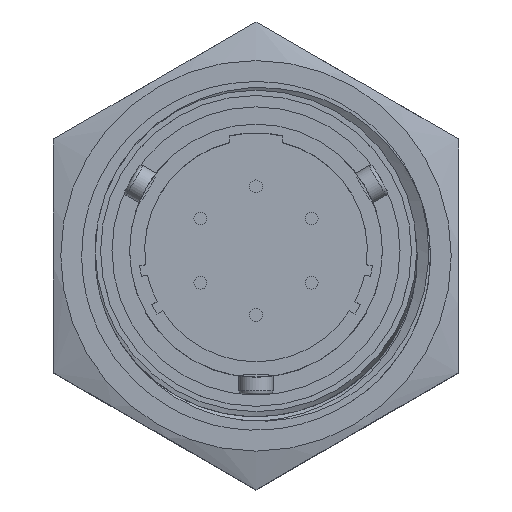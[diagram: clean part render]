
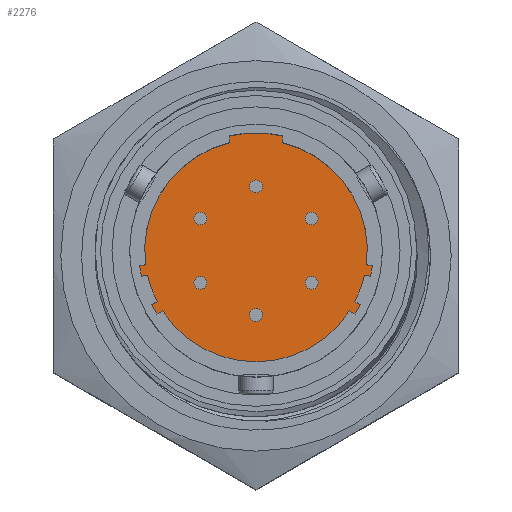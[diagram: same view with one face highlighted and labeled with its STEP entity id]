
A CAD part, top view. The second image highlights one B-rep face of the part: STEP entity #2276.
In plain terms, the highlighted planar face has unit normal (0, 0, 1).
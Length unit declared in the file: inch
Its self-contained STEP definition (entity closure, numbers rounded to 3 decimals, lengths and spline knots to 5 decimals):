
#173=PLANE('',#2717);
#296=FACE_OUTER_BOUND('',#458,.T.);
#458=EDGE_LOOP('',(#1836,#1837,#1838,#1839,#1840,#1841,#1842,#1843,#1844,
#1845,#1846,#1847,#1848,#1849,#1850,#1851,#1852,#1853,#1854,#1855));
#583=CIRCLE('',#2718,0.25942);
#584=CIRCLE('',#2719,0.27445);
#585=CIRCLE('',#2720,0.25923);
#586=CIRCLE('',#2721,0.25971);
#587=CIRCLE('',#2722,0.275);
#588=CIRCLE('',#2723,0.25971);
#589=CIRCLE('',#2724,0.25923);
#590=CIRCLE('',#2725,0.27445);
#774=LINE('',#8503,#906);
#775=LINE('',#8507,#907);
#776=LINE('',#8511,#908);
#777=LINE('',#8513,#909);
#778=LINE('',#8515,#910);
#779=LINE('',#8519,#911);
#780=LINE('',#8523,#912);
#781=LINE('',#8527,#913);
#782=LINE('',#8529,#914);
#783=LINE('',#8531,#915);
#784=LINE('',#8535,#916);
#785=LINE('',#8538,#917);
#906=VECTOR('',#3156,0.3937);
#907=VECTOR('',#3159,0.3937);
#908=VECTOR('',#3162,0.3937);
#909=VECTOR('',#3163,0.3937);
#910=VECTOR('',#3164,0.3937);
#911=VECTOR('',#3167,0.3937);
#912=VECTOR('',#3170,0.3937);
#913=VECTOR('',#3173,0.3937);
#914=VECTOR('',#3174,0.3937);
#915=VECTOR('',#3175,0.3937);
#916=VECTOR('',#3178,0.3937);
#917=VECTOR('',#3181,0.3937);
#1092=VERTEX_POINT('',#8499);
#1093=VERTEX_POINT('',#8500);
#1094=VERTEX_POINT('',#8502);
#1095=VERTEX_POINT('',#8504);
#1096=VERTEX_POINT('',#8506);
#1097=VERTEX_POINT('',#8508);
#1098=VERTEX_POINT('',#8510);
#1099=VERTEX_POINT('',#8512);
#1100=VERTEX_POINT('',#8514);
#1101=VERTEX_POINT('',#8516);
#1102=VERTEX_POINT('',#8518);
#1103=VERTEX_POINT('',#8520);
#1104=VERTEX_POINT('',#8522);
#1105=VERTEX_POINT('',#8524);
#1106=VERTEX_POINT('',#8526);
#1107=VERTEX_POINT('',#8528);
#1108=VERTEX_POINT('',#8530);
#1109=VERTEX_POINT('',#8532);
#1110=VERTEX_POINT('',#8534);
#1111=VERTEX_POINT('',#8536);
#1359=EDGE_CURVE('',#1092,#1093,#583,.T.);
#1360=EDGE_CURVE('',#1093,#1094,#774,.T.);
#1361=EDGE_CURVE('',#1094,#1095,#584,.T.);
#1362=EDGE_CURVE('',#1095,#1096,#775,.T.);
#1363=EDGE_CURVE('',#1096,#1097,#585,.T.);
#1364=EDGE_CURVE('',#1097,#1098,#776,.T.);
#1365=EDGE_CURVE('',#1098,#1099,#777,.T.);
#1366=EDGE_CURVE('',#1099,#1100,#778,.T.);
#1367=EDGE_CURVE('',#1100,#1101,#586,.T.);
#1368=EDGE_CURVE('',#1101,#1102,#779,.T.);
#1369=EDGE_CURVE('',#1102,#1103,#587,.T.);
#1370=EDGE_CURVE('',#1103,#1104,#780,.T.);
#1371=EDGE_CURVE('',#1104,#1105,#588,.T.);
#1372=EDGE_CURVE('',#1105,#1106,#781,.T.);
#1373=EDGE_CURVE('',#1106,#1107,#782,.T.);
#1374=EDGE_CURVE('',#1107,#1108,#783,.T.);
#1375=EDGE_CURVE('',#1108,#1109,#589,.T.);
#1376=EDGE_CURVE('',#1109,#1110,#784,.T.);
#1377=EDGE_CURVE('',#1110,#1111,#590,.T.);
#1378=EDGE_CURVE('',#1111,#1092,#785,.T.);
#1836=ORIENTED_EDGE('',*,*,#1359,.T.);
#1837=ORIENTED_EDGE('',*,*,#1360,.T.);
#1838=ORIENTED_EDGE('',*,*,#1361,.T.);
#1839=ORIENTED_EDGE('',*,*,#1362,.T.);
#1840=ORIENTED_EDGE('',*,*,#1363,.T.);
#1841=ORIENTED_EDGE('',*,*,#1364,.T.);
#1842=ORIENTED_EDGE('',*,*,#1365,.T.);
#1843=ORIENTED_EDGE('',*,*,#1366,.T.);
#1844=ORIENTED_EDGE('',*,*,#1367,.T.);
#1845=ORIENTED_EDGE('',*,*,#1368,.T.);
#1846=ORIENTED_EDGE('',*,*,#1369,.T.);
#1847=ORIENTED_EDGE('',*,*,#1370,.T.);
#1848=ORIENTED_EDGE('',*,*,#1371,.T.);
#1849=ORIENTED_EDGE('',*,*,#1372,.T.);
#1850=ORIENTED_EDGE('',*,*,#1373,.T.);
#1851=ORIENTED_EDGE('',*,*,#1374,.T.);
#1852=ORIENTED_EDGE('',*,*,#1375,.T.);
#1853=ORIENTED_EDGE('',*,*,#1376,.T.);
#1854=ORIENTED_EDGE('',*,*,#1377,.T.);
#1855=ORIENTED_EDGE('',*,*,#1378,.T.);
#2276=ADVANCED_FACE('',(#296),#173,.T.);
#2717=AXIS2_PLACEMENT_3D('',#8498,#3152,#3153);
#2718=AXIS2_PLACEMENT_3D('',#8501,#3154,#3155);
#2719=AXIS2_PLACEMENT_3D('',#8505,#3157,#3158);
#2720=AXIS2_PLACEMENT_3D('',#8509,#3160,#3161);
#2721=AXIS2_PLACEMENT_3D('',#8517,#3165,#3166);
#2722=AXIS2_PLACEMENT_3D('',#8521,#3168,#3169);
#2723=AXIS2_PLACEMENT_3D('',#8525,#3171,#3172);
#2724=AXIS2_PLACEMENT_3D('',#8533,#3176,#3177);
#2725=AXIS2_PLACEMENT_3D('',#8537,#3179,#3180);
#3152=DIRECTION('center_axis',(0.,0.,1.));
#3153=DIRECTION('ref_axis',(1.,0.,0.));
#3154=DIRECTION('center_axis',(0.,0.,1.));
#3155=DIRECTION('ref_axis',(-0.841,-0.541,0.));
#3156=DIRECTION('',(-0.866,0.5,0.));
#3157=DIRECTION('center_axis',(0.,0.,1.));
#3158=DIRECTION('ref_axis',(0.842,-0.539,0.));
#3159=DIRECTION('',(0.866,-0.5,0.));
#3160=DIRECTION('center_axis',(0.,0.,1.));
#3161=DIRECTION('ref_axis',(0.889,-0.458,0.));
#3162=DIRECTION('',(-0.985,0.174,0.));
#3163=DIRECTION('',(-0.174,-0.985,0.));
#3164=DIRECTION('',(0.985,-0.174,0.));
#3165=DIRECTION('center_axis',(0.,0.,1.));
#3166=DIRECTION('ref_axis',(0.992,-0.126,0.));
#3167=DIRECTION('',(0.,-1.,0.));
#3168=DIRECTION('center_axis',(0.,0.,1.));
#3169=DIRECTION('ref_axis',(1.,0.,0.));
#3170=DIRECTION('',(0.,1.,0.));
#3171=DIRECTION('center_axis',(0.,0.,1.));
#3172=DIRECTION('ref_axis',(0.992,-0.126,0.));
#3173=DIRECTION('',(0.985,0.174,0.));
#3174=DIRECTION('',(-0.174,0.985,0.));
#3175=DIRECTION('',(-0.985,-0.174,0.));
#3176=DIRECTION('center_axis',(0.,0.,1.));
#3177=DIRECTION('ref_axis',(-0.975,-0.221,0.));
#3178=DIRECTION('',(0.866,0.5,0.));
#3179=DIRECTION('center_axis',(0.,0.,1.));
#3180=DIRECTION('ref_axis',(-0.888,-0.46,0.));
#3181=DIRECTION('',(-0.866,-0.5,0.));
#8498=CARTESIAN_POINT('Origin',(0.,0.,0.));
#8499=CARTESIAN_POINT('',(0.21815,0.14038,0.));
#8500=CARTESIAN_POINT('',(-0.21815,0.14038,0.));
#8501=CARTESIAN_POINT('Origin',(0.,0.,0.));
#8502=CARTESIAN_POINT('',(-0.23119,0.14791,0.));
#8503=CARTESIAN_POINT('',(-0.10595,0.0756,0.));
#8504=CARTESIAN_POINT('',(-0.24369,0.12626,0.));
#8505=CARTESIAN_POINT('Origin',(0.,0.,0.));
#8506=CARTESIAN_POINT('',(-0.23049,0.11864,0.));
#8507=CARTESIAN_POINT('',(-0.12497,0.05772,0.));
#8508=CARTESIAN_POINT('',(-0.25282,0.05727,0.));
#8509=CARTESIAN_POINT('Origin',(0.,0.,0.));
#8510=CARTESIAN_POINT('',(-0.26729,0.05982,0.));
#8511=CARTESIAN_POINT('',(-0.12532,0.03479,0.));
#8512=CARTESIAN_POINT('',(-0.27164,0.0352,0.));
#8513=CARTESIAN_POINT('',(-0.26838,0.05367,0.));
#8514=CARTESIAN_POINT('',(-0.25764,0.03274,0.));
#8515=CARTESIAN_POINT('',(-0.1369,0.01145,0.));
#8516=CARTESIAN_POINT('',(-0.0615,-0.25233,0.));
#8517=CARTESIAN_POINT('Origin',(0.,0.,0.));
#8518=CARTESIAN_POINT('',(-0.0615,-0.26803,0.));
#8519=CARTESIAN_POINT('',(-0.0615,-0.12616,0.));
#8520=CARTESIAN_POINT('',(0.0615,-0.26803,0.));
#8521=CARTESIAN_POINT('Origin',(0.,0.,0.));
#8522=CARTESIAN_POINT('',(0.0615,-0.25233,0.));
#8523=CARTESIAN_POINT('',(0.0615,-0.13402,0.));
#8524=CARTESIAN_POINT('',(0.25764,0.03274,0.));
#8525=CARTESIAN_POINT('Origin',(0.,0.,0.));
#8526=CARTESIAN_POINT('',(0.27164,0.0352,0.));
#8527=CARTESIAN_POINT('',(0.12991,0.01021,0.));
#8528=CARTESIAN_POINT('',(0.26729,0.05982,0.));
#8529=CARTESIAN_POINT('',(0.27055,0.04136,0.));
#8530=CARTESIAN_POINT('',(0.25282,0.05727,0.));
#8531=CARTESIAN_POINT('',(0.13256,0.03607,0.));
#8532=CARTESIAN_POINT('',(0.23049,0.11864,0.));
#8533=CARTESIAN_POINT('Origin',(0.,0.,0.));
#8534=CARTESIAN_POINT('',(0.24369,0.12626,0.));
#8535=CARTESIAN_POINT('',(0.11837,0.05391,0.));
#8536=CARTESIAN_POINT('',(0.23119,0.14791,0.));
#8537=CARTESIAN_POINT('Origin',(0.,0.,0.));
#8538=CARTESIAN_POINT('',(0.11247,0.07937,0.));
